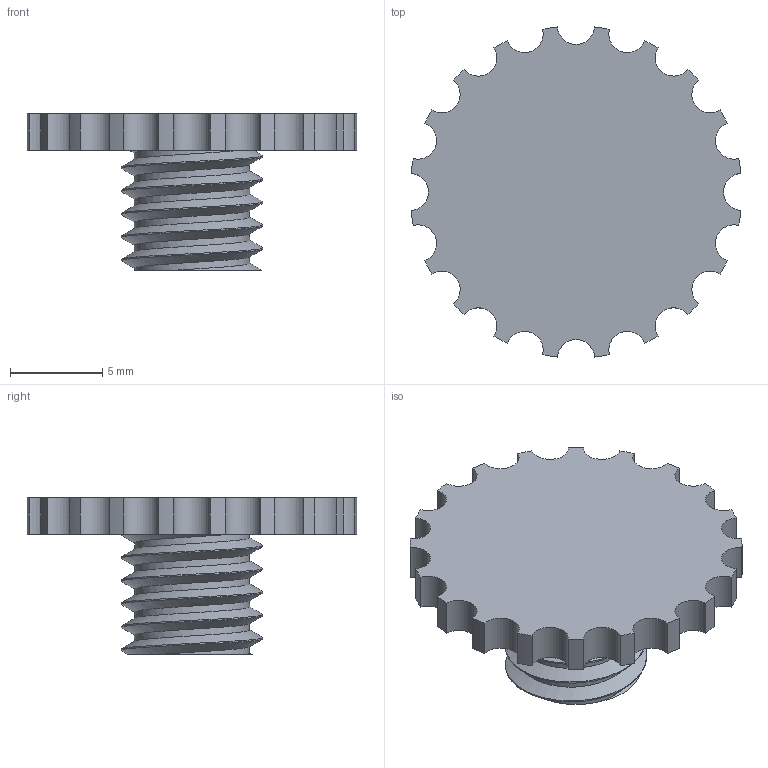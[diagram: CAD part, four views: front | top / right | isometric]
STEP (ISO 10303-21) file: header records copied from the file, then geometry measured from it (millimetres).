
FILE_DESCRIPTION(/* description */ (''),/* implementation_level */ '2;1');
FILE_NAME(/* name */ 'D:/Dokumenty/3D/Luke''s 3D/Projects/Spool winder v3/STEP/Spool adapter bolt.step',/* time_stamp */ '2021-11-14T12:19:48+01:00',/* author */ (''),/* organization */ (''),/* preprocessor_version */ 'ST-DEVELOPER v18.1',/* originating_system */ 'Autodesk Translation Framework v10.10.0.1391',/* authorisation */ '');
FILE_SCHEMA (('AUTOMOTIVE_DESIGN { 1 0 10303 214 3 1 1 }'));
Length unit declared in the file: millimetre
Products named in the file (3): Spool winder 2; Center; Spool adapter bolt
Assembly tree (2 placements, depth 3):
  Spool winder 2
    Center
      Spool adapter bolt
Bounding box: 17.89 x 17.89 x 8.5 mm (x, y, z)
Volume: 684.1 mm3; surface area: 833.9 mm2
Topology: 1 solids, 1 shells, 57 faces, 162 edges, 108 vertices
Faces by surface type: cylinder 52, plane 3, bspline 2
Full cylindrical faces by diameter (mm): 6.245 x4, 7.666 x4
Entity records: 3121 total; most frequent: CARTESIAN_POINT 1535, DIRECTION 338, ORIENTED_EDGE 324, EDGE_CURVE 162, AXIS2_PLACEMENT_3D 144, VERTEX_POINT 108, CIRCLE 84, EDGE_LOOP 58
